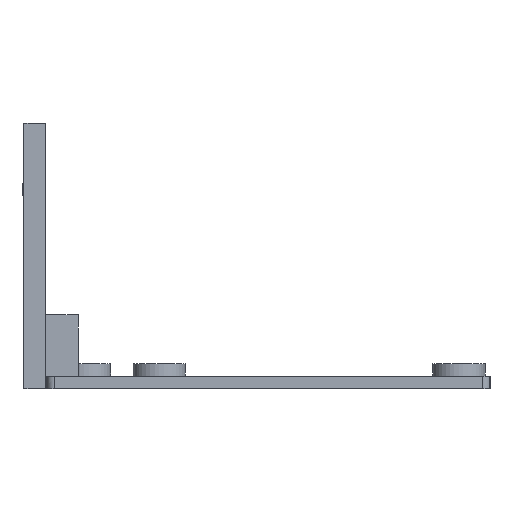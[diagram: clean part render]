
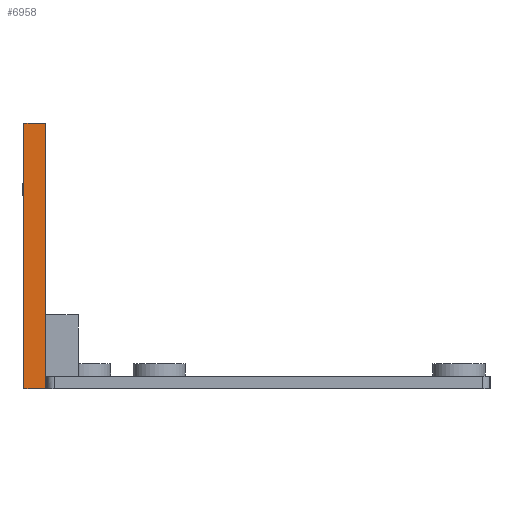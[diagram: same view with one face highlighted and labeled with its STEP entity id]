
A CAD part, left-side view. The second image highlights one B-rep face of the part: STEP entity #6958.
In plain terms, the highlighted planar face has unit normal (-1, 0, 0).
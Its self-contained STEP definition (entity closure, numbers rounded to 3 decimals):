
#2209 = PLANE('',#2210);
#2210 = AXIS2_PLACEMENT_3D('',#2211,#2212,#2213);
#2211 = CARTESIAN_POINT('',(3.8,276.2,3.2));
#2212 = DIRECTION('',(0.,1.,0.));
#2213 = DIRECTION('',(0.,0.,1.));
#5020 = VERTEX_POINT('',#5021);
#5021 = CARTESIAN_POINT('',(3.8,276.2,3.2));
#5037 = PLANE('',#5038);
#5038 = AXIS2_PLACEMENT_3D('',#5039,#5040,#5041);
#5039 = CARTESIAN_POINT('',(3.8,276.2,3.2));
#5040 = DIRECTION('',(0.,0.,1.));
#5041 = DIRECTION('',(1.,0.,0.));
#5049 = EDGE_CURVE('',#5020,#5050,#5052,.T.);
#5050 = VERTEX_POINT('',#5051);
#5051 = CARTESIAN_POINT('',(3.8,276.2,45.7));
#5052 = SURFACE_CURVE('',#5053,(#5057,#5064),.PCURVE_S1.);
#5053 = LINE('',#5054,#5055);
#5054 = CARTESIAN_POINT('',(3.8,276.2,3.2));
#5055 = VECTOR('',#5056,1.);
#5056 = DIRECTION('',(0.,0.,1.));
#5057 = PCURVE('',#2209,#5058);
#5058 = DEFINITIONAL_REPRESENTATION('',(#5059),#5063);
#5059 = LINE('',#5060,#5061);
#5060 = CARTESIAN_POINT('',(0.,0.));
#5061 = VECTOR('',#5062,1.);
#5062 = DIRECTION('',(1.,0.));
#5063 = ( GEOMETRIC_REPRESENTATION_CONTEXT(2) 
PARAMETRIC_REPRESENTATION_CONTEXT() REPRESENTATION_CONTEXT('2D SPACE',''
  ) );
#5064 = PCURVE('',#5065,#5070);
#5065 = PLANE('',#5066);
#5066 = AXIS2_PLACEMENT_3D('',#5067,#5068,#5069);
#5067 = CARTESIAN_POINT('',(3.8,276.2,3.2));
#5068 = DIRECTION('',(1.,0.,0.));
#5069 = DIRECTION('',(0.,0.,1.));
#5070 = DEFINITIONAL_REPRESENTATION('',(#5071),#5075);
#5071 = LINE('',#5072,#5073);
#5072 = CARTESIAN_POINT('',(0.,0.));
#5073 = VECTOR('',#5074,1.);
#5074 = DIRECTION('',(1.,0.));
#5075 = ( GEOMETRIC_REPRESENTATION_CONTEXT(2) 
PARAMETRIC_REPRESENTATION_CONTEXT() REPRESENTATION_CONTEXT('2D SPACE',''
  ) );
#5093 = PLANE('',#5094);
#5094 = AXIS2_PLACEMENT_3D('',#5095,#5096,#5097);
#5095 = CARTESIAN_POINT('',(3.8,276.2,45.7));
#5096 = DIRECTION('',(0.,0.,1.));
#5097 = DIRECTION('',(1.,0.,0.));
#6837 = EDGE_CURVE('',#5020,#6838,#6840,.T.);
#6838 = VERTEX_POINT('',#6839);
#6839 = CARTESIAN_POINT('',(3.8,279.7,3.2));
#6840 = SURFACE_CURVE('',#6841,(#6845,#6852),.PCURVE_S1.);
#6841 = LINE('',#6842,#6843);
#6842 = CARTESIAN_POINT('',(3.8,276.2,3.2));
#6843 = VECTOR('',#6844,1.);
#6844 = DIRECTION('',(0.,1.,0.));
#6845 = PCURVE('',#5037,#6846);
#6846 = DEFINITIONAL_REPRESENTATION('',(#6847),#6851);
#6847 = LINE('',#6848,#6849);
#6848 = CARTESIAN_POINT('',(0.,0.));
#6849 = VECTOR('',#6850,1.);
#6850 = DIRECTION('',(0.,1.));
#6851 = ( GEOMETRIC_REPRESENTATION_CONTEXT(2) 
PARAMETRIC_REPRESENTATION_CONTEXT() REPRESENTATION_CONTEXT('2D SPACE',''
  ) );
#6852 = PCURVE('',#5065,#6853);
#6853 = DEFINITIONAL_REPRESENTATION('',(#6854),#6858);
#6854 = LINE('',#6855,#6856);
#6855 = CARTESIAN_POINT('',(0.,0.));
#6856 = VECTOR('',#6857,1.);
#6857 = DIRECTION('',(0.,-1.));
#6858 = ( GEOMETRIC_REPRESENTATION_CONTEXT(2) 
PARAMETRIC_REPRESENTATION_CONTEXT() REPRESENTATION_CONTEXT('2D SPACE',''
  ) );
#6898 = PLANE('',#6899);
#6899 = AXIS2_PLACEMENT_3D('',#6900,#6901,#6902);
#6900 = CARTESIAN_POINT('',(3.8,279.7,3.2));
#6901 = DIRECTION('',(0.,1.,0.));
#6902 = DIRECTION('',(0.,0.,1.));
#6958 = ADVANCED_FACE('',(#6959),#5065,.F.);
#6959 = FACE_BOUND('',#6960,.F.);
#6960 = EDGE_LOOP('',(#6961,#6962,#6963,#6986));
#6961 = ORIENTED_EDGE('',*,*,#5049,.F.);
#6962 = ORIENTED_EDGE('',*,*,#6837,.T.);
#6963 = ORIENTED_EDGE('',*,*,#6964,.T.);
#6964 = EDGE_CURVE('',#6838,#6965,#6967,.T.);
#6965 = VERTEX_POINT('',#6966);
#6966 = CARTESIAN_POINT('',(3.8,279.7,45.7));
#6967 = SURFACE_CURVE('',#6968,(#6972,#6979),.PCURVE_S1.);
#6968 = LINE('',#6969,#6970);
#6969 = CARTESIAN_POINT('',(3.8,279.7,3.2));
#6970 = VECTOR('',#6971,1.);
#6971 = DIRECTION('',(0.,0.,1.));
#6972 = PCURVE('',#5065,#6973);
#6973 = DEFINITIONAL_REPRESENTATION('',(#6974),#6978);
#6974 = LINE('',#6975,#6976);
#6975 = CARTESIAN_POINT('',(0.,-3.5));
#6976 = VECTOR('',#6977,1.);
#6977 = DIRECTION('',(1.,0.));
#6978 = ( GEOMETRIC_REPRESENTATION_CONTEXT(2) 
PARAMETRIC_REPRESENTATION_CONTEXT() REPRESENTATION_CONTEXT('2D SPACE',''
  ) );
#6979 = PCURVE('',#6898,#6980);
#6980 = DEFINITIONAL_REPRESENTATION('',(#6981),#6985);
#6981 = LINE('',#6982,#6983);
#6982 = CARTESIAN_POINT('',(0.,0.));
#6983 = VECTOR('',#6984,1.);
#6984 = DIRECTION('',(1.,0.));
#6985 = ( GEOMETRIC_REPRESENTATION_CONTEXT(2) 
PARAMETRIC_REPRESENTATION_CONTEXT() REPRESENTATION_CONTEXT('2D SPACE',''
  ) );
#6986 = ORIENTED_EDGE('',*,*,#6987,.F.);
#6987 = EDGE_CURVE('',#5050,#6965,#6988,.T.);
#6988 = SURFACE_CURVE('',#6989,(#6993,#7000),.PCURVE_S1.);
#6989 = LINE('',#6990,#6991);
#6990 = CARTESIAN_POINT('',(3.8,276.2,45.7));
#6991 = VECTOR('',#6992,1.);
#6992 = DIRECTION('',(0.,1.,0.));
#6993 = PCURVE('',#5065,#6994);
#6994 = DEFINITIONAL_REPRESENTATION('',(#6995),#6999);
#6995 = LINE('',#6996,#6997);
#6996 = CARTESIAN_POINT('',(42.5,0.));
#6997 = VECTOR('',#6998,1.);
#6998 = DIRECTION('',(0.,-1.));
#6999 = ( GEOMETRIC_REPRESENTATION_CONTEXT(2) 
PARAMETRIC_REPRESENTATION_CONTEXT() REPRESENTATION_CONTEXT('2D SPACE',''
  ) );
#7000 = PCURVE('',#5093,#7001);
#7001 = DEFINITIONAL_REPRESENTATION('',(#7002),#7006);
#7002 = LINE('',#7003,#7004);
#7003 = CARTESIAN_POINT('',(0.,0.));
#7004 = VECTOR('',#7005,1.);
#7005 = DIRECTION('',(0.,1.));
#7006 = ( GEOMETRIC_REPRESENTATION_CONTEXT(2) 
PARAMETRIC_REPRESENTATION_CONTEXT() REPRESENTATION_CONTEXT('2D SPACE',''
  ) );
